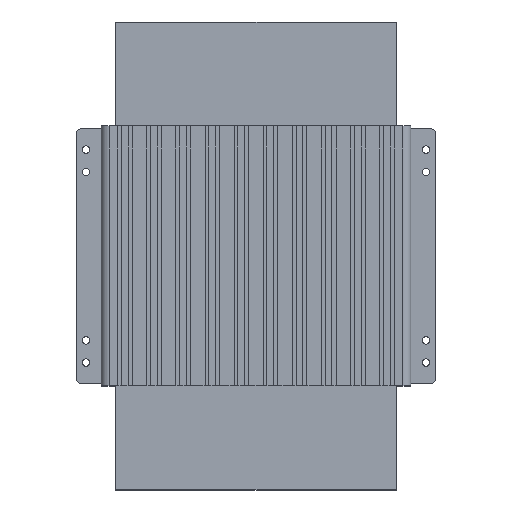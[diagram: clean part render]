
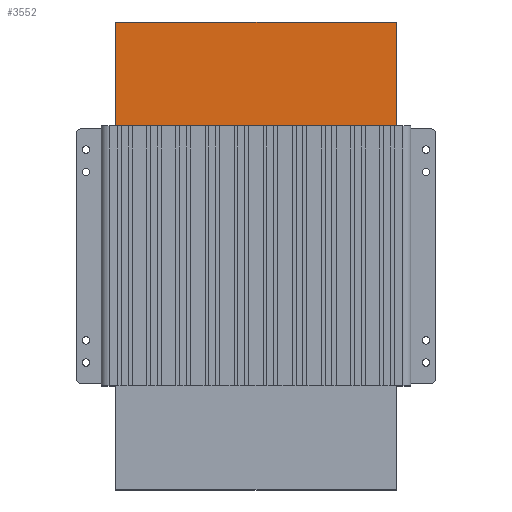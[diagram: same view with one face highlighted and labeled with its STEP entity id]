
A CAD part, top view. The second image highlights one B-rep face of the part: STEP entity #3552.
In plain terms, the highlighted planar face has unit normal (0, 0, 1).
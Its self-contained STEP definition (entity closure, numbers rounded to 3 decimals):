
#130=ORIENTED_EDGE('',*,*,#906,.T.);
#131=ORIENTED_EDGE('',*,*,#905,.F.);
#132=ORIENTED_EDGE('',*,*,#907,.F.);
#133=ORIENTED_EDGE('',*,*,#908,.T.);
#905=EDGE_CURVE('',#1293,#1290,#1561,.T.);
#906=EDGE_CURVE('',#1294,#1290,#1562,.T.);
#907=EDGE_CURVE('',#1295,#1293,#1563,.T.);
#908=EDGE_CURVE('',#1295,#1294,#1564,.T.);
#1290=VERTEX_POINT('',#4684);
#1293=VERTEX_POINT('',#4689);
#1294=VERTEX_POINT('',#4693);
#1295=VERTEX_POINT('',#4695);
#1561=LINE('',#4690,#1889);
#1562=LINE('',#4692,#1890);
#1563=LINE('',#4694,#1891);
#1564=LINE('',#4696,#1892);
#1889=VECTOR('',#3932,1000.);
#1890=VECTOR('',#3935,1000.);
#1891=VECTOR('',#3936,1000.);
#1892=VECTOR('',#3937,1000.);
#2215=EDGE_LOOP('',(#130,#131,#132,#133));
#2403=FACE_BOUND('',#2215,.T.);
#2591=PLANE('',#3713);
#3552=ADVANCED_FACE('',(#2403),#2591,.F.);
#3713=AXIS2_PLACEMENT_3D('',#4691,#3933,#3934);
#3932=DIRECTION('',(0.,-1.,0.));
#3933=DIRECTION('',(0.,0.,-1.));
#3934=DIRECTION('',(-1.,0.,0.));
#3935=DIRECTION('',(1.,0.,0.));
#3936=DIRECTION('',(1.,0.,0.));
#3937=DIRECTION('',(0.,-1.,0.));
#4684=CARTESIAN_POINT('',(67.5,125.,13.));
#4689=CARTESIAN_POINT('',(67.5,175.,13.));
#4690=CARTESIAN_POINT('',(67.5,150.,13.));
#4691=CARTESIAN_POINT('',(-67.5,150.,13.));
#4692=CARTESIAN_POINT('',(0.,125.,13.));
#4693=CARTESIAN_POINT('',(-67.5,125.,13.));
#4694=CARTESIAN_POINT('',(-67.5,175.,13.));
#4695=CARTESIAN_POINT('',(-67.5,175.,13.));
#4696=CARTESIAN_POINT('',(-67.5,150.,13.));
